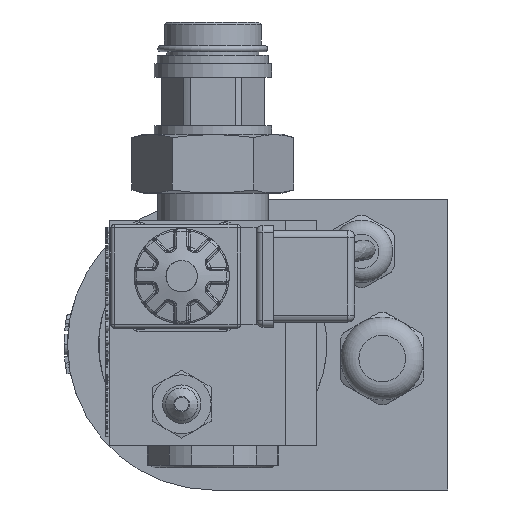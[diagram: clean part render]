
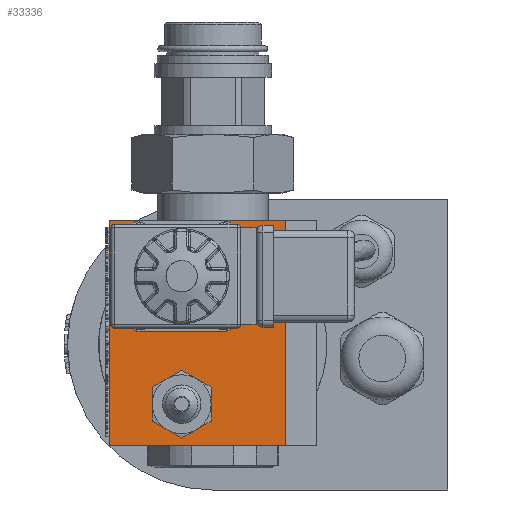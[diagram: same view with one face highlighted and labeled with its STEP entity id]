
A CAD part, left-side view. The second image highlights one B-rep face of the part: STEP entity #33336.
In plain terms, the highlighted planar face has unit normal (-1, 0, 0).
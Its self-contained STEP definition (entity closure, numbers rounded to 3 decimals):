
#888=FACE_BOUND('',#11580,.T.);
#889=FACE_BOUND('',#11581,.T.);
#2608=LINE('',#53902,#5391);
#2610=LINE('',#53916,#5393);
#2612=LINE('',#53928,#5395);
#2614=LINE('',#53940,#5397);
#2626=LINE('',#54982,#5409);
#2627=LINE('',#54984,#5410);
#2628=LINE('',#54986,#5411);
#2629=LINE('',#54987,#5412);
#5391=VECTOR('',#39395,24.);
#5393=VECTOR('',#39411,24.);
#5395=VECTOR('',#39425,24.);
#5397=VECTOR('',#39439,24.);
#5409=VECTOR('',#39715,65.);
#5410=VECTOR('',#39716,51.);
#5411=VECTOR('',#39717,65.);
#5412=VECTOR('',#39718,51.);
#8164=PLANE('',#35880);
#9621=FACE_OUTER_BOUND('',#11579,.T.);
#11579=EDGE_LOOP('',(#15900,#15901,#15902,#15903));
#11580=EDGE_LOOP('',(#15904,#15905,#15906,#15907,#15908,#15909));
#11581=EDGE_LOOP('',(#15910,#15911,#15912,#15913,#15914,#15915,#15916,#15917));
#15900=ORIENTED_EDGE('',*,*,#24288,.F.);
#15901=ORIENTED_EDGE('',*,*,#24289,.T.);
#15902=ORIENTED_EDGE('',*,*,#24290,.T.);
#15903=ORIENTED_EDGE('',*,*,#24291,.T.);
#15904=ORIENTED_EDGE('',*,*,#24292,.T.);
#15905=ORIENTED_EDGE('',*,*,#24293,.T.);
#15906=ORIENTED_EDGE('',*,*,#24294,.T.);
#15907=ORIENTED_EDGE('',*,*,#24295,.T.);
#15908=ORIENTED_EDGE('',*,*,#24296,.T.);
#15909=ORIENTED_EDGE('',*,*,#24297,.T.);
#15910=ORIENTED_EDGE('',*,*,#24139,.T.);
#15911=ORIENTED_EDGE('',*,*,#24143,.T.);
#15912=ORIENTED_EDGE('',*,*,#24146,.T.);
#15913=ORIENTED_EDGE('',*,*,#24149,.T.);
#15914=ORIENTED_EDGE('',*,*,#24152,.T.);
#15915=ORIENTED_EDGE('',*,*,#24155,.T.);
#15916=ORIENTED_EDGE('',*,*,#24158,.T.);
#15917=ORIENTED_EDGE('',*,*,#24161,.T.);
#24139=EDGE_CURVE('',#28503,#28504,#2608,.T.);
#24143=EDGE_CURVE('',#28504,#28507,#31508,.T.);
#24146=EDGE_CURVE('',#28507,#28509,#2610,.T.);
#24149=EDGE_CURVE('',#28509,#28511,#31512,.T.);
#24152=EDGE_CURVE('',#28511,#28513,#2612,.T.);
#24155=EDGE_CURVE('',#28513,#28515,#31516,.T.);
#24158=EDGE_CURVE('',#28515,#28517,#2614,.T.);
#24161=EDGE_CURVE('',#28517,#28503,#31520,.T.);
#24288=EDGE_CURVE('',#28578,#28579,#2626,.T.);
#24289=EDGE_CURVE('',#28578,#28580,#2627,.T.);
#24290=EDGE_CURVE('',#28580,#28581,#2628,.T.);
#24291=EDGE_CURVE('',#28581,#28579,#2629,.T.);
#24292=EDGE_CURVE('',#28582,#28583,#31591,.T.);
#24293=EDGE_CURVE('',#28583,#28584,#31592,.T.);
#24294=EDGE_CURVE('',#28584,#28585,#31593,.T.);
#24295=EDGE_CURVE('',#28585,#28586,#31594,.T.);
#24296=EDGE_CURVE('',#28586,#28587,#31595,.T.);
#24297=EDGE_CURVE('',#28587,#28582,#31596,.T.);
#28503=VERTEX_POINT('',#53900);
#28504=VERTEX_POINT('',#53901);
#28507=VERTEX_POINT('',#53909);
#28509=VERTEX_POINT('',#53915);
#28511=VERTEX_POINT('',#53921);
#28513=VERTEX_POINT('',#53927);
#28515=VERTEX_POINT('',#53933);
#28517=VERTEX_POINT('',#53939);
#28578=VERTEX_POINT('',#54980);
#28579=VERTEX_POINT('',#54981);
#28580=VERTEX_POINT('',#54983);
#28581=VERTEX_POINT('',#54985);
#28582=VERTEX_POINT('',#54988);
#28583=VERTEX_POINT('',#54989);
#28584=VERTEX_POINT('',#54991);
#28585=VERTEX_POINT('',#54993);
#28586=VERTEX_POINT('',#54995);
#28587=VERTEX_POINT('',#54997);
#31508=CIRCLE('',#35733,3.975);
#31512=CIRCLE('',#35739,3.975);
#31516=CIRCLE('',#35745,3.975);
#31520=CIRCLE('',#35751,3.975);
#31591=CIRCLE('',#35881,8.5);
#31592=CIRCLE('',#35882,8.5);
#31593=CIRCLE('',#35883,8.5);
#31594=CIRCLE('',#35884,8.5);
#31595=CIRCLE('',#35885,8.5);
#31596=CIRCLE('',#35886,8.5);
#33336=ADVANCED_FACE('',(#9621,#888,#889),#8164,.T.);
#35733=AXIS2_PLACEMENT_3D('',#53910,#39403,#39404);
#35739=AXIS2_PLACEMENT_3D('',#53922,#39417,#39418);
#35745=AXIS2_PLACEMENT_3D('',#53934,#39431,#39432);
#35751=AXIS2_PLACEMENT_3D('',#53945,#39445,#39446);
#35880=AXIS2_PLACEMENT_3D('',#54979,#39713,#39714);
#35881=AXIS2_PLACEMENT_3D('',#54990,#39719,#39720);
#35882=AXIS2_PLACEMENT_3D('',#54992,#39721,#39722);
#35883=AXIS2_PLACEMENT_3D('',#54994,#39723,#39724);
#35884=AXIS2_PLACEMENT_3D('',#54996,#39725,#39726);
#35885=AXIS2_PLACEMENT_3D('',#54998,#39727,#39728);
#35886=AXIS2_PLACEMENT_3D('',#54999,#39729,#39730);
#39395=DIRECTION('',(0.,0.,1.));
#39403=DIRECTION('center_axis',(1.,0.,0.));
#39404=DIRECTION('ref_axis',(0.,0.,-1.));
#39411=DIRECTION('',(0.,-1.,0.));
#39417=DIRECTION('center_axis',(1.,0.,0.));
#39418=DIRECTION('ref_axis',(0.,0.,-1.));
#39425=DIRECTION('',(0.,0.,-1.));
#39431=DIRECTION('center_axis',(1.,0.,0.));
#39432=DIRECTION('ref_axis',(0.,0.,-1.));
#39439=DIRECTION('',(0.,1.,0.));
#39445=DIRECTION('center_axis',(1.,0.,0.));
#39446=DIRECTION('ref_axis',(0.,0.,-1.));
#39713=DIRECTION('center_axis',(-1.,0.,0.));
#39714=DIRECTION('ref_axis',(0.,0.,1.));
#39715=DIRECTION('',(0.,0.,-1.));
#39716=DIRECTION('',(0.,1.,0.));
#39717=DIRECTION('',(0.,0.,-1.));
#39718=DIRECTION('',(0.,-1.,0.));
#39719=DIRECTION('center_axis',(1.,0.,0.));
#39720=DIRECTION('ref_axis',(0.,0.,
1.));
#39721=DIRECTION('center_axis',(1.,0.,0.));
#39722=DIRECTION('ref_axis',(0.,0.,
1.));
#39723=DIRECTION('center_axis',(1.,0.,0.));
#39724=DIRECTION('ref_axis',(0.,0.,
1.));
#39725=DIRECTION('center_axis',(1.,0.,0.));
#39726=DIRECTION('ref_axis',(0.,0.,
1.));
#39727=DIRECTION('center_axis',(1.,0.,0.));
#39728=DIRECTION('ref_axis',(0.,0.,
1.));
#39729=DIRECTION('center_axis',(1.,0.,0.));
#39730=DIRECTION('ref_axis',(0.,0.,
1.));
#53900=CARTESIAN_POINT('',(-28.,54.475,37.));
#53901=CARTESIAN_POINT('',(-28.,54.475,61.));
#53902=CARTESIAN_POINT('',(-28.,54.475,36.52));
#53909=CARTESIAN_POINT('',(-28.,50.5,64.975));
#53910=CARTESIAN_POINT('Origin',(-28.,50.5,61.));
#53915=CARTESIAN_POINT('',(-28.,26.5,64.975));
#53916=CARTESIAN_POINT('',(-28.,50.98,64.975));
#53921=CARTESIAN_POINT('',(-28.,22.525,61.));
#53922=CARTESIAN_POINT('Origin',(-28.,26.5,61.));
#53927=CARTESIAN_POINT('',(-28.,22.525,37.));
#53928=CARTESIAN_POINT('',(-28.,22.525,61.48));
#53933=CARTESIAN_POINT('',(-28.,26.5,33.025));
#53934=CARTESIAN_POINT('Origin',(-28.,26.5,37.));
#53939=CARTESIAN_POINT('',(-28.,50.5,33.025));
#53940=CARTESIAN_POINT('',(-28.,26.02,33.025));
#53945=CARTESIAN_POINT('Origin',(-28.,50.5,37.));
#54979=CARTESIAN_POINT('Origin',(-28.,29.5,32.5));
#54980=CARTESIAN_POINT('',(-28.,8.5,65.));
#54981=CARTESIAN_POINT('',(-28.,8.5,0.));
#54982=CARTESIAN_POINT('',(-28.,8.5,32.5));
#54983=CARTESIAN_POINT('',(-28.,59.5,65.));
#54984=CARTESIAN_POINT('',(-28.,-0.5,65.));
#54985=CARTESIAN_POINT('',(-28.,59.5,0.));
#54986=CARTESIAN_POINT('',(-28.,59.5,65.));
#54987=CARTESIAN_POINT('',(-28.,59.5,0.));
#54988=CARTESIAN_POINT('',(-28.,42.75,4.639));
#54989=CARTESIAN_POINT('',(-28.,47.,12.));
#54990=CARTESIAN_POINT('Origin',(-28.,38.5,12.));
#54991=CARTESIAN_POINT('',(-28.,42.75,19.361));
#54992=CARTESIAN_POINT('Origin',(-28.,38.5,12.));
#54993=CARTESIAN_POINT('',(-28.,34.25,19.361));
#54994=CARTESIAN_POINT('Origin',(-28.,38.5,12.));
#54995=CARTESIAN_POINT('',(-28.,30.,12.));
#54996=CARTESIAN_POINT('Origin',(-28.,38.5,12.));
#54997=CARTESIAN_POINT('',(-28.,34.25,4.639));
#54998=CARTESIAN_POINT('Origin',(-28.,38.5,12.));
#54999=CARTESIAN_POINT('Origin',(-28.,38.5,12.));
